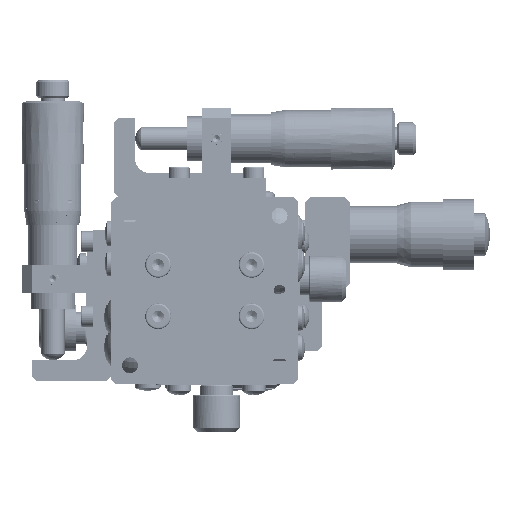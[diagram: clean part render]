
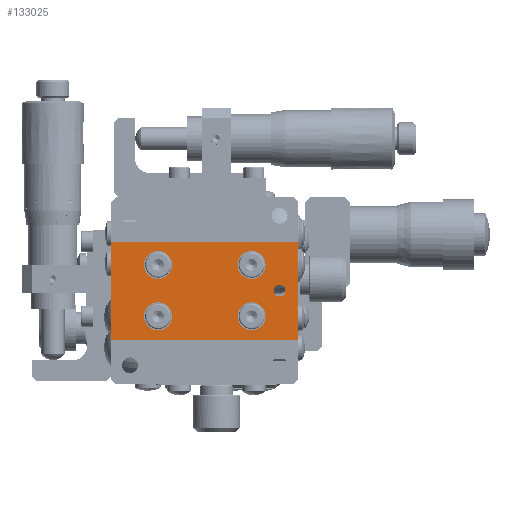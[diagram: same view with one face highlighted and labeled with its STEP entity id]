
A CAD part, front view. The second image highlights one B-rep face of the part: STEP entity #133025.
In plain terms, the highlighted planar face has unit normal (0, -1, 0).
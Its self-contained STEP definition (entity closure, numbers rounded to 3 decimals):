
#369 = VERTEX_POINT ( 'NONE', #106918 ) ;
#1879 = ORIENTED_EDGE ( 'NONE', *, *, #39391, .F. ) ;
#4686 = CIRCLE ( 'NONE', #77307, 3. ) ;
#8292 = CARTESIAN_POINT ( 'NONE',  ( -7., -39.5, -5.5 ) ) ;
#8359 = AXIS2_PLACEMENT_3D ( 'NONE', #95109, #122179, #81996 ) ;
#9524 = CARTESIAN_POINT ( 'NONE',  ( -20., -39.5, -10.5 ) ) ;
#10682 = PLANE ( 'NONE',  #86159 ) ;
#11394 = CIRCLE ( 'NONE', #109114, 3. ) ;
#22217 = VERTEX_POINT ( 'NONE', #142749 ) ;
#22445 = CARTESIAN_POINT ( 'NONE',  ( 20., -39.5, -10.5 ) ) ;
#22580 = LINE ( 'NONE', #9524, #121890 ) ;
#22882 = FACE_BOUND ( 'NONE', #162742, .T. ) ;
#30613 = ORIENTED_EDGE ( 'NONE', *, *, #86559, .F. ) ;
#31838 = VERTEX_POINT ( 'NONE', #108782 ) ;
#34398 = CARTESIAN_POINT ( 'NONE',  ( 20., -39.5, 10.5 ) ) ;
#36428 = VERTEX_POINT ( 'NONE', #34398 ) ;
#37243 = CARTESIAN_POINT ( 'NONE',  ( -20., -39.5, -10.5 ) ) ;
#37898 = DIRECTION ( 'NONE',  ( 0., -1., 0. ) ) ;
#39391 = EDGE_CURVE ( 'NONE', #84939, #36428, #108984, .T. ) ;
#39427 = CARTESIAN_POINT ( 'NONE',  ( -20., -39.5, 10.5 ) ) ;
#41575 = DIRECTION ( 'NONE',  ( 1., 0., 0. ) ) ;
#42542 = EDGE_CURVE ( 'NONE', #31838, #31838, #11394, .T. ) ;
#42587 = CARTESIAN_POINT ( 'NONE',  ( -20., -39.5, 10.5 ) ) ;
#46879 = EDGE_LOOP ( 'NONE', ( #74274 ) ) ;
#51002 = VERTEX_POINT ( 'NONE', #102576 ) ;
#58737 = ORIENTED_EDGE ( 'NONE', *, *, #77665, .T. ) ;
#59624 = EDGE_LOOP ( 'NONE', ( #156505 ) ) ;
#59787 = VERTEX_POINT ( 'NONE', #8292 ) ;
#62763 = DIRECTION ( 'NONE',  ( 1., 0., 0. ) ) ;
#63927 = DIRECTION ( 'NONE',  ( 0., 1., 0. ) ) ;
#65650 = FACE_BOUND ( 'NONE', #169942, .T. ) ;
#66518 = FACE_BOUND ( 'NONE', #59624, .T. ) ;
#70170 = VERTEX_POINT ( 'NONE', #37243 ) ;
#74274 = ORIENTED_EDGE ( 'NONE', *, *, #103636, .F. ) ;
#77070 = FACE_BOUND ( 'NONE', #46879, .T. ) ;
#77095 = ORIENTED_EDGE ( 'NONE', *, *, #151918, .T. ) ;
#77307 = AXIS2_PLACEMENT_3D ( 'NONE', #133279, #91383, #94816 ) ;
#77665 = EDGE_CURVE ( 'NONE', #160197, #36428, #92170, .T. ) ;
#81619 = CARTESIAN_POINT ( 'NONE',  ( 20., -39.5, 10.5 ) ) ;
#81996 = DIRECTION ( 'NONE',  ( 1., 0., 0. ) ) ;
#84939 = VERTEX_POINT ( 'NONE', #131446 ) ;
#86159 = AXIS2_PLACEMENT_3D ( 'NONE', #39427, #63927, #117223 ) ;
#86559 = EDGE_CURVE ( 'NONE', #70170, #84939, #161503, .T. ) ;
#87101 = CIRCLE ( 'NONE', #140209, 3. ) ;
#89331 = EDGE_LOOP ( 'NONE', ( #133339 ) ) ;
#91383 = DIRECTION ( 'NONE',  ( 0., -1., 0. ) ) ;
#91539 = VECTOR ( 'NONE', #147980, 1000. ) ;
#91869 = FACE_BOUND ( 'NONE', #89331, .T. ) ;
#92170 = LINE ( 'NONE', #81619, #91539 ) ;
#94816 = DIRECTION ( 'NONE',  ( 1., 0., 0. ) ) ;
#95109 = CARTESIAN_POINT ( 'NONE',  ( -10., -39.5, 5.5 ) ) ;
#96035 = DIRECTION ( 'NONE',  ( 0., 0., 1. ) ) ;
#99971 = DIRECTION ( 'NONE',  ( 1., 0., 0. ) ) ;
#100822 = CARTESIAN_POINT ( 'NONE',  ( 10., -39.5, 5.5 ) ) ;
#102576 = CARTESIAN_POINT ( 'NONE',  ( 13., -39.5, 5.5 ) ) ;
#103636 = EDGE_CURVE ( 'NONE', #369, #369, #147846, .T. ) ;
#106918 = CARTESIAN_POINT ( 'NONE',  ( -7., -39.5, 5.5 ) ) ;
#108782 = CARTESIAN_POINT ( 'NONE',  ( 13., -39.5, -5.5 ) ) ;
#108984 = LINE ( 'NONE', #42587, #161557 ) ;
#109114 = AXIS2_PLACEMENT_3D ( 'NONE', #130511, #37898, #114808 ) ;
#114808 = DIRECTION ( 'NONE',  ( 1., 0., 0. ) ) ;
#117223 = DIRECTION ( 'NONE',  ( 1., 0., 0. ) ) ;
#120515 = CARTESIAN_POINT ( 'NONE',  ( -20., -39.5, 10.5 ) ) ;
#121740 = ORIENTED_EDGE ( 'NONE', *, *, #42542, .F. ) ;
#121890 = VECTOR ( 'NONE', #62763, 1000. ) ;
#122179 = DIRECTION ( 'NONE',  ( 0., -1., 0. ) ) ;
#122948 = DIRECTION ( 'NONE',  ( 1., 0., 0. ) ) ;
#126457 = VECTOR ( 'NONE', #96035, 1000. ) ;
#130329 = FACE_OUTER_BOUND ( 'NONE', #149019, .T. ) ;
#130511 = CARTESIAN_POINT ( 'NONE',  ( 10., -39.5, -5.5 ) ) ;
#131446 = CARTESIAN_POINT ( 'NONE',  ( -20., -39.5, 10.5 ) ) ;
#133025 = ADVANCED_FACE ( 'NONE', ( #65650, #77070, #22882, #130329, #66518, #91869 ), #10682, .F. ) ;
#133279 = CARTESIAN_POINT ( 'NONE',  ( -10., -39.5, -5.5 ) ) ;
#133339 = ORIENTED_EDGE ( 'NONE', *, *, #158105, .F. ) ;
#140209 = AXIS2_PLACEMENT_3D ( 'NONE', #100822, #166258, #99971 ) ;
#142749 = CARTESIAN_POINT ( 'NONE',  ( 17.25, -39.5, 0. ) ) ;
#147846 = CIRCLE ( 'NONE', #8359, 3. ) ;
#147980 = DIRECTION ( 'NONE',  ( 0., 0., 1. ) ) ;
#149019 = EDGE_LOOP ( 'NONE', ( #58737, #1879, #30613, #77095 ) ) ;
#151918 = EDGE_CURVE ( 'NONE', #70170, #160197, #22580, .T. ) ;
#152246 = EDGE_CURVE ( 'NONE', #59787, #59787, #4686, .T. ) ;
#154237 = CIRCLE ( 'NONE', #165440, 1.25 ) ;
#156505 = ORIENTED_EDGE ( 'NONE', *, *, #152246, .F. ) ;
#158105 = EDGE_CURVE ( 'NONE', #51002, #51002, #87101, .T. ) ;
#158229 = ORIENTED_EDGE ( 'NONE', *, *, #160423, .T. ) ;
#160197 = VERTEX_POINT ( 'NONE', #22445 ) ;
#160423 = EDGE_CURVE ( 'NONE', #22217, #22217, #154237, .T. ) ;
#161216 = DIRECTION ( 'NONE',  ( 0., 1., 0. ) ) ;
#161503 = LINE ( 'NONE', #120515, #126457 ) ;
#161557 = VECTOR ( 'NONE', #122948, 1000. ) ;
#162742 = EDGE_LOOP ( 'NONE', ( #121740 ) ) ;
#163769 = CARTESIAN_POINT ( 'NONE',  ( 16., -39.5, 0. ) ) ;
#165440 = AXIS2_PLACEMENT_3D ( 'NONE', #163769, #161216, #41575 ) ;
#166258 = DIRECTION ( 'NONE',  ( 0., -1., 0. ) ) ;
#169942 = EDGE_LOOP ( 'NONE', ( #158229 ) ) ;
